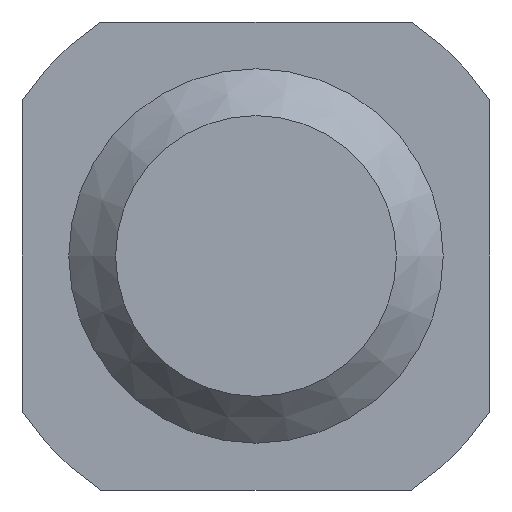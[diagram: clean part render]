
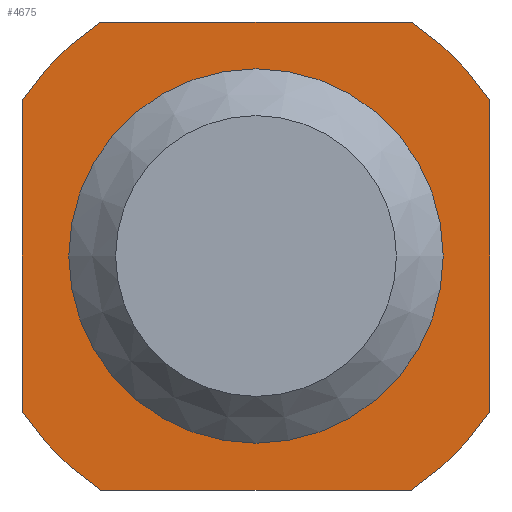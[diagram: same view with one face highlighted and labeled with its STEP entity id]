
A CAD part, front view. The second image highlights one B-rep face of the part: STEP entity #4675.
In plain terms, the highlighted planar face has unit normal (0, -1, 0).
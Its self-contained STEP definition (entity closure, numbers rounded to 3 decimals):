
#4675=ADVANCED_FACE('',(#33967,#33969),#33971,.T.);
#33967=FACE_BOUND('',#33968,.T.);
#33968=EDGE_LOOP('',(#61264,#61265,#61266,#61267,#61268,#61269,#61270,#61271));
#33969=FACE_BOUND('',#33970,.T.);
#33970=EDGE_LOOP('',(#61272));
#33971=PLANE('',#33972);
#33972=AXIS2_PLACEMENT_3D('',#33973,#33974,#33975);
#33973=CARTESIAN_POINT('',(0.,-106.,0.));
#33974=DIRECTION('',(0.,-1.,0.));
#33975=DIRECTION('',(-1.,0.,0.));
#61264=ORIENTED_EDGE('',*,*,#67181,.T.);
#61265=ORIENTED_EDGE('',*,*,#67273,.T.);
#61266=ORIENTED_EDGE('',*,*,#67271,.T.);
#61267=ORIENTED_EDGE('',*,*,#67269,.T.);
#61268=ORIENTED_EDGE('',*,*,#67267,.T.);
#61269=ORIENTED_EDGE('',*,*,#67187,.T.);
#61270=ORIENTED_EDGE('',*,*,#67185,.T.);
#61271=ORIENTED_EDGE('',*,*,#67183,.T.);
#61272=ORIENTED_EDGE('',*,*,#67275,.F.);
#67181=EDGE_CURVE('',#70217,#70215,#70218,.F.);
#67183=EDGE_CURVE('',#70220,#70217,#70221,.T.);
#67185=EDGE_CURVE('',#70223,#70220,#70224,.F.);
#67187=EDGE_CURVE('',#70226,#70223,#70227,.T.);
#67267=EDGE_CURVE('',#70385,#70226,#70386,.F.);
#67269=EDGE_CURVE('',#70388,#70385,#70389,.T.);
#67271=EDGE_CURVE('',#70391,#70388,#70392,.F.);
#67273=EDGE_CURVE('',#70215,#70391,#70394,.T.);
#67275=EDGE_CURVE('',#70397,#70397,#70398,.T.);
#70215=VERTEX_POINT('',#76193);
#70217=VERTEX_POINT('',#76197);
#70218=CIRCLE('',#76198,6.);
#70220=VERTEX_POINT('',#76205);
#70221=LINE('',#76206,#76207);
#70223=VERTEX_POINT('',#76212);
#70224=CIRCLE('',#76213,6.);
#70226=VERTEX_POINT('',#76220);
#70227=LINE('',#76221,#76222);
#70385=VERTEX_POINT('',#76580);
#70386=CIRCLE('',#76581,6.);
#70388=VERTEX_POINT('',#76588);
#70389=LINE('',#76589,#76590);
#70391=VERTEX_POINT('',#76595);
#70392=CIRCLE('',#76596,6.);
#70394=LINE('',#76603,#76604);
#70397=VERTEX_POINT('',#76611);
#70398=CIRCLE('',#76612,3.1);
#76193=CARTESIAN_POINT('',(3.317,-106.,5.));
#76197=CARTESIAN_POINT('',(5.,-106.,3.317));
#76198=AXIS2_PLACEMENT_3D('',#76199,#76200,#76201);
#76199=CARTESIAN_POINT('',(0.,-106.,0.));
#76200=DIRECTION('',(0.,1.,0.));
#76201=DIRECTION('',(0.553,0.,0.833));
#76205=CARTESIAN_POINT('',(5.,-106.,-3.317));
#76206=CARTESIAN_POINT('',(5.,-106.,-3.317));
#76207=VECTOR('',#76208,1.);
#76208=DIRECTION('',(0.,0.,1.));
#76212=CARTESIAN_POINT('',(3.317,-106.,-5.));
#76213=AXIS2_PLACEMENT_3D('',#76214,#76215,#76216);
#76214=CARTESIAN_POINT('',(0.,-106.,0.));
#76215=DIRECTION('',(0.,1.,0.));
#76216=DIRECTION('',(0.833,0.,-0.553));
#76220=CARTESIAN_POINT('',(-3.317,-106.,-5.));
#76221=CARTESIAN_POINT('',(-3.317,-106.,-5.));
#76222=VECTOR('',#76223,1.);
#76223=DIRECTION('',(1.,0.,0.));
#76580=CARTESIAN_POINT('',(-5.,-106.,-3.317));
#76581=AXIS2_PLACEMENT_3D('',#76582,#76583,#76584);
#76582=CARTESIAN_POINT('',(0.,-106.,0.));
#76583=DIRECTION('',(0.,1.,0.));
#76584=DIRECTION('',(-0.553,0.,-0.833));
#76588=CARTESIAN_POINT('',(-5.,-106.,3.317));
#76589=CARTESIAN_POINT('',(-5.,-106.,3.317));
#76590=VECTOR('',#76591,1.);
#76591=DIRECTION('',(0.,0.,-1.));
#76595=CARTESIAN_POINT('',(-3.317,-106.,5.));
#76596=AXIS2_PLACEMENT_3D('',#76597,#76598,#76599);
#76597=CARTESIAN_POINT('',(0.,-106.,0.));
#76598=DIRECTION('',(0.,1.,0.));
#76599=DIRECTION('',(-0.833,0.,0.553));
#76603=CARTESIAN_POINT('',(3.317,-106.,5.));
#76604=VECTOR('',#76605,1.);
#76605=DIRECTION('',(-1.,0.,0.));
#76611=CARTESIAN_POINT('',(0.,-106.,-3.1));
#76612=AXIS2_PLACEMENT_3D('',#76613,#76614,#76615);
#76613=CARTESIAN_POINT('',(0.,-106.,0.));
#76614=DIRECTION('',(0.,-1.,0.));
#76615=DIRECTION('',(0.,0.,-1.));
